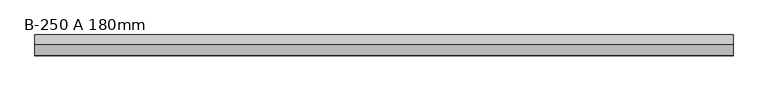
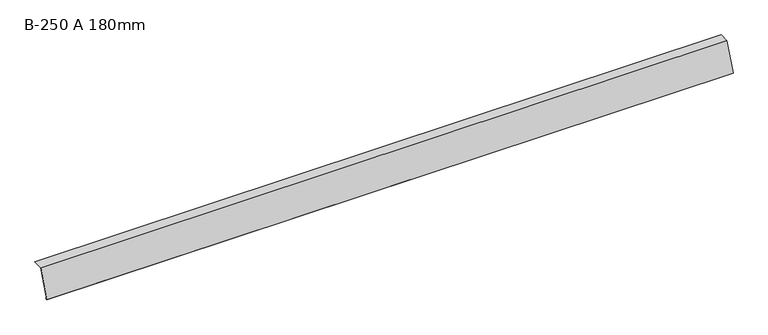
"""IFC4 building model written with IfcOpenShell, lengths in millimetres: proxy geometry, GROVIK_Flashing_Eaves : B-250 A 180mm."""

from ifc_helpers import new_model, si_unit, frame, origin, place, context, project, spatial, polyline, outline, extrude, source, transform, mapped, element, save


def b_250_a_180mm_6712f201(model_context):
    return source(origin(), model_context, "Body", "SweptSolid", [
        extrude(outline(polyline([(-0.6918582, 0.9880759), (-65.0804424, -166.7499206), (-55.3774851, -164.3307017), (-55.1355632, -165.3009974), (-66.7024412, -168.184944), (-1.3837164, 1.9761518), (58.9561092, 3.0293874), (58.9735616, 2.0295397), (-0.6918582, 0.9880759)])), frame((0.0, 0.0, 0.0), z_axis=(1.0, 0.0, 0.0), x_axis=(0.0, 1.0, 0.0)), (0.0, 0.0, 1.0), 4200.0),
    ])


if __name__ == "__main__":
    model = new_model("IFC4")
    model_context = context("Model", 3, world=origin())
    ifc_project = project(units=[si_unit("LENGTHUNIT", "METRE", prefix="MILLI")], contexts=[model_context])
    site = spatial("IfcSite", under=ifc_project)
    building = spatial("IfcBuilding", under=site)
    placement = place(None, origin())
    b_250_a_180mm_shape = b_250_a_180mm_6712f201(model_context)
    element("IfcBuildingElementProxy", 1, Name="GROVIK_Flashing_Eaves : B-250 A 180mm", ObjectType="GROVIK_Flashing_Eaves : B-250 A 180mm", at=placement, inside=building, context=model_context, shape_type="MappedRepresentation", body=[
        mapped(b_250_a_180mm_shape, transform((0.0, 0.0, 0.0), x_axis=(1.0, 0.0, 0.0), y_axis=(0.0, 1.0, 0.0), z_axis=(0.0, 0.0, 1.0))),
    ])
    save(model, "model.ifc")
